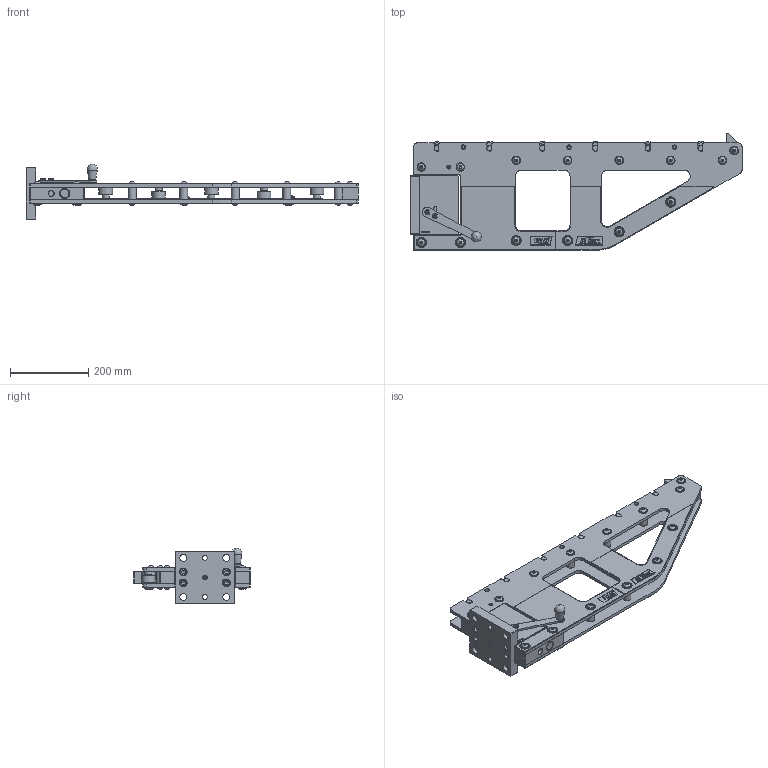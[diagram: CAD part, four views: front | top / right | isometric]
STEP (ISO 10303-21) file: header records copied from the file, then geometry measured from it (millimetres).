
FILE_DESCRIPTION(/* description */ ('CONSOLE PLATE LEFT'),/* implementation_level */ '2;1');
FILE_NAME(/* name */ 'C:\Users\jaccow\AppData\Local\Temp\Cadac\NetworkPub\step\FB670-950.iam.stp',/* time_stamp */ '2017-12-14T12:40:11+01:00',/* author */ ('Yue'),/* organization */ (''),/* preprocessor_version */ 'ST-DEVELOPER v16.1',/* originating_system */ 'Autodesk Inventor 2016',/* authorisation */ '');
FILE_SCHEMA (('AUTOMOTIVE_DESIGN { 1 0 10303 214 3 1 1 }'));
Products named in the file (35): FB674-101; FB622-186; CCE1020-028-9A; FB830-690; FB626-690; FB620-044; FB621-104; FB627-104; DQ1504-281; FB662-101; CAE1100-1081A; DQ1397-120; FB851-026; FB852-026; FB827-298; FB672-950; FB643-101; FB640-690; CCA1227-0281A; FB633-061; FB632-070; PP0306-070; CBA821-0281B; CAA1233-0612C; PP0307-155; PP0308-155; PP0309-110; PP0377-130; PP0304-108; PP0378-108; FB639-950; PP0311-071; FB678-104; CCA615-0285C; FB670-950
Assembly tree (99 placements, depth 3):
  FB670-950
    FB672-950
      FB674-101  x2
      FB622-186  x9
      CCE1020-028-9A  x31
      FB830-690
      FB626-690
      FB620-044
      FB621-104  x5
      FB627-104  x6
      DQ1504-281  x6
      FB662-101
      CAE1100-1081A  x3
      DQ1397-120  x3
      FB851-026
      FB852-026
      FB827-298
    FB639-950
      FB643-101
      FB640-690
      CCA1227-0281A  x4
      FB633-061
      FB632-070
      PP0306-070
      CBA821-0281B
      CAA1233-0612C
      PP0307-155  x2
      PP0308-155
      PP0309-110
      PP0377-130  x2
      PP0304-108  x2
      PP0378-108  x2
    PP0311-071
    FB678-104
    CCA615-0285C  x2
Bounding box: 849 x 298.57 x 142.5 mm (x, y, z)
Volume: 4200556.3 mm3; surface area: 1311452.8 mm2
Topology: 123 solids, 123 shells, 4221 faces, 10252 edges, 6674 vertices
Faces by surface type: plane 2316, bspline 911, cylinder 487, cone 392, torus 114, sphere 1
Full cylindrical faces by diameter (mm): 1.215 x6, 2.4 x6, 3 x1, 4.773 x2, 4.917 x4, 4.918 x1, 6 x4, 6.4 x1, 6.647 x1, 7.42 x2, 8 x5, 8.1 x1, 8.376 x17, 8.4 x4, 8.5 x1, 10 x52, 10.106 x4, 10.5 x3, 11 x3, 11.5 x8, 12 x6, 12.1 x3, 13 x2, 13.5 x4, 15 x14, 15.425 x1, 15.95 x5, 16 x15, 16.1 x1, 17 x2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
Entity records: 99531 total; most frequent: CARTESIAN_POINT 30456, ORIENTED_EDGE 14922, DIRECTION 10587, EDGE_CURVE 7452, LINE 5079, VECTOR 5079, VERTEX_POINT 5068, EDGE_LOOP 3587
